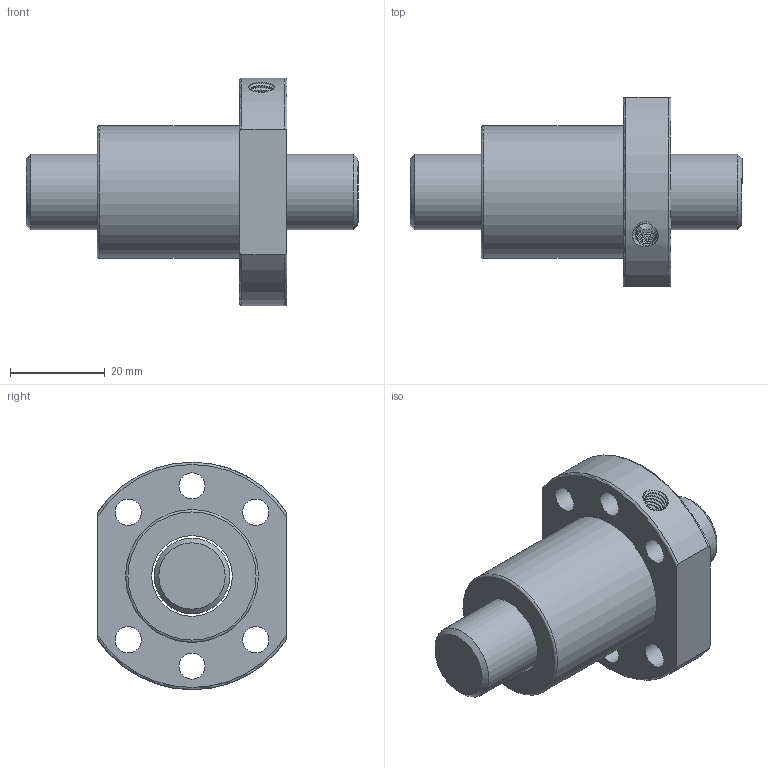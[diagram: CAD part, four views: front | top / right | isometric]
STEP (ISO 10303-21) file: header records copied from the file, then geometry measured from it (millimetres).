
FILE_DESCRIPTION(/* description */ ('Unknown','CAx-IF Rec.Pracs.---Representation and Presentation of Product Manufacturing Information (PMI)---4.0---2014-10-13','CAx-IF Rec.Pracs.---3D Tessellated Geometry---0.4---2014-09-14','2;1'),/* implementation_level */ '2;1');
FILE_NAME(/* name */ 'SFU01604',/* time_stamp */ '2020-12-07T14:17:19+08:00',/* author */ ('Unknown'),/* organization */ ('Unknown'),/* preprocessor_version */ 'ST-DEVELOPER v16.7',/* originating_system */ 'Solid Edge',/* authorisation */ 'Unknown');
FILE_SCHEMA (('AP242_MANAGED_MODEL_BASED_3D_ENGINEERING_MIM_LF { 1 0 10303 442 1 1 4 }'));
Length unit declared in the file: millimetre
Products named in the file (1): SFU01604
Bounding box: 70 x 40 x 48 mm (x, y, z)
Volume: 38356.5 mm3; surface area: 13969.2 mm2
Topology: 2 solids, 2 shells, 31 faces, 73 edges, 48 vertices
Faces by surface type: cylinder 14, plane 8, torus 5, cone 2, bspline 2
Full cylindrical faces by diameter (mm): 4 x1, 5.5 x6, 16 x1, 17 x1, 28 x1
Entity records: 3301 total; most frequent: CARTESIAN_POINT 2516, DIRECTION 142, ORIENTED_EDGE 118, AXIS2_PLACEMENT_3D 68, EDGE_LOOP 62, FACE_BOUND 62, EDGE_CURVE 59, VERTEX_POINT 47
